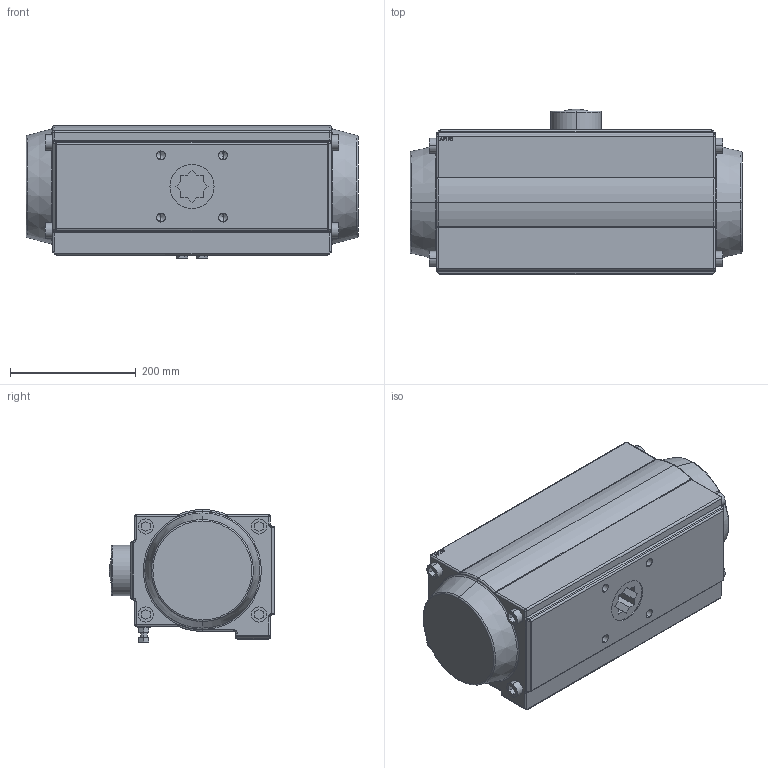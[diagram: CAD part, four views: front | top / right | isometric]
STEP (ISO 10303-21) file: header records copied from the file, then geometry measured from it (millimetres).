
FILE_DESCRIPTION (( 'STEP AP203' ), '1' );
FILE_NAME ('AP190.STEP', '2020-04-08T11:54:43', ( '' ), ( '' ), 'SwSTEP 2.0', 'SolidWorks 2017', '' );
FILE_SCHEMA (( 'CONFIG_CONTROL_DESIGN' ));
Length unit declared in the file: millimetre
Products named in the file (1): AP190
Bounding box: 528 x 263 x 211.56 mm (x, y, z)
Volume: 20780944.3 mm3; surface area: 518892.4 mm2
Topology: 1 solids, 1 shells, 486 faces, 1159 edges, 705 vertices
Faces by surface type: plane 203, cylinder 118, bspline 65, cone 60, torus 38, sphere 2
Entity records: 16886 total; most frequent: CARTESIAN_POINT 6100, ORIENTED_EDGE 2262, DIRECTION 2121, EDGE_CURVE 1131, AXIS2_PLACEMENT_3D 746, VERTEX_POINT 705, VECTOR 629, LINE 629
